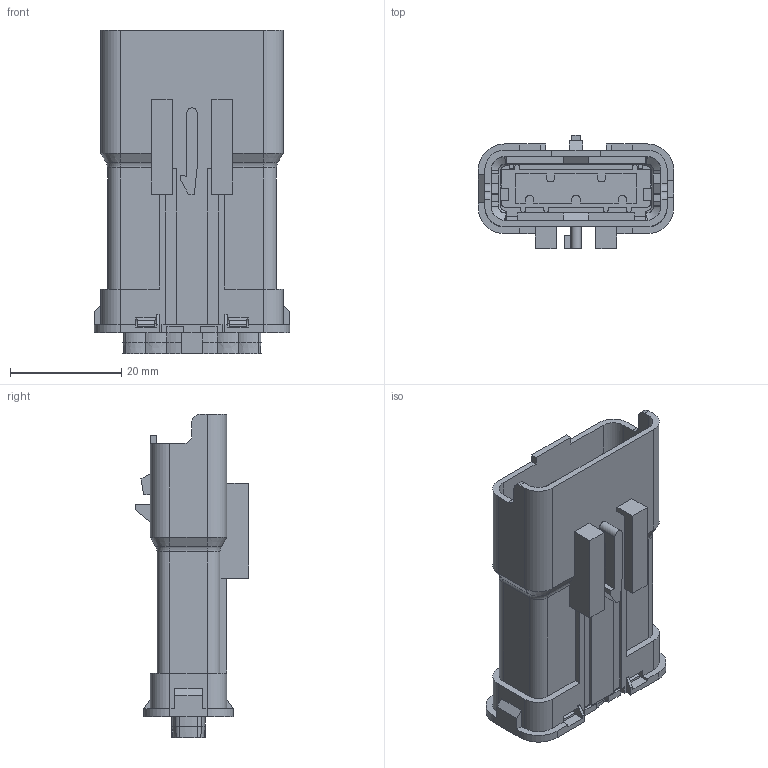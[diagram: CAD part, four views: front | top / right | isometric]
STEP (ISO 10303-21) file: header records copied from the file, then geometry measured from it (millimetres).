
FILE_DESCRIPTION(/* description */ (''),/* implementation_level */ '2;1');
FILE_NAME(/* name */ '33511738_ENV10_01.stp',/* time_stamp */ '2020-07-09T21:46:41+05:00',/* author */ (''),/* organization */ (''),/* preprocessor_version */ 'ST-DEVELOPER v16',/* originating_system */ 'SIEMENS PLM Software NX 11.0',/* authorisation */ '');
FILE_SCHEMA (('AP203_CONFIGURATION_CONTROLLED_3D_DESIGN_OF_MECHANICAL_PARTS_AND_ASSEMBLIES_MIM_LF { 1 0 10303 403 2 1 2}'));
Length unit declared in the file: millimetre
Products named in the file (1): qzs53380227A7lbj
Bounding box: 35.13 x 20.35 x 58.05 mm (x, y, z)
Volume: 15489.2 mm3; surface area: 9049.4 mm2
Topology: 1 solids, 1 shells, 510 faces, 1465 edges, 951 vertices
Faces by surface type: plane 381, cylinder 79, cone 26, torus 20, bspline 4
Entity records: 17457 total; most frequent: CARTESIAN_POINT 3929, ORIENTED_EDGE 2930, DIRECTION 2640, EDGE_CURVE 1465, LINE 1182, VECTOR 1182, VERTEX_POINT 951, AXIS2_PLACEMENT_3D 729
